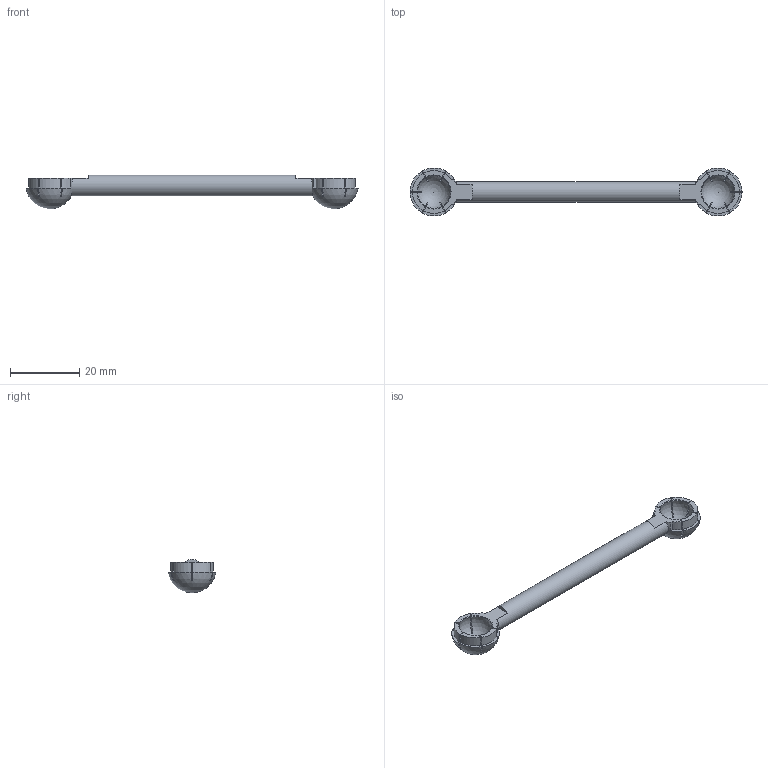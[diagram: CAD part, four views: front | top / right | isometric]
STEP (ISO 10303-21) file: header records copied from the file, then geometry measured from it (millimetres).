
FILE_DESCRIPTION(('Open CASCADE Model'),'2;1');
FILE_NAME('Open CASCADE Shape Model','2026-11-07T20:50:06',('Author'),( 'Open CASCADE'),'Open CASCADE STEP processor 7.9','Open CASCADE 7.9' ,'Unknown');
FILE_SCHEMA(('AUTOMOTIVE_DESIGN { 1 0 10303 214 1 1 1 1 }'));
Length unit declared in the file: millimetre
Products named in the file (1): Open CASCADE STEP translator 7.9 2
Bounding box: 95.85 x 13.86 x 9.71 mm (x, y, z)
Volume: 2922.9 mm3; surface area: 2723.5 mm2
Topology: 1 solids, 1 shells, 85 faces, 261 edges, 174 vertices
Faces by surface type: plane 58, cylinder 13, cone 10, sphere 4
Full cylindrical faces by diameter (mm): 6 x1
Entity records: 8024 total; most frequent: CARTESIAN_POINT 3316, DIRECTION 818, ORIENTED_EDGE 514, PCURVE 514, DEFINITIONAL_REPRESENTATION 514, EDGE_CURVE 257, SURFACE_CURVE 252, LINE 246
